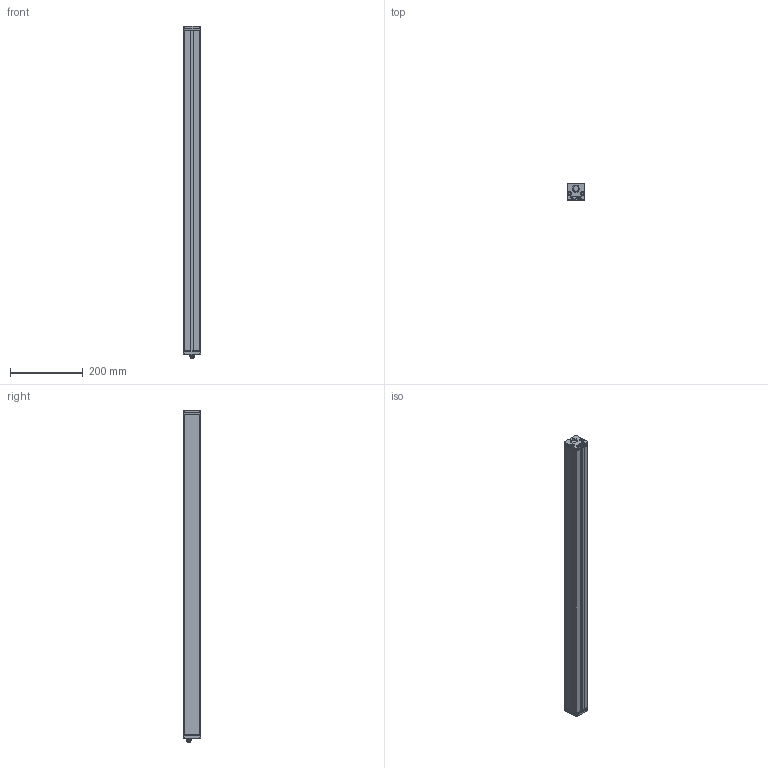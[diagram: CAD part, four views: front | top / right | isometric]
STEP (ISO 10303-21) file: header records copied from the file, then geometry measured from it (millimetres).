
FILE_DESCRIPTION (( 'STEP AP214' ), '1' );
FILE_NAME ('BLBAR 35.STEP', '2012-02-13T13:39:06', ( ' ' ), ( '' ), 'SwSTEP 2.0', 'SolidWorks 2009', '' );
FILE_SCHEMA (( 'AUTOMOTIVE_DESIGN' ));
Length unit declared in the file: millimetre
Products named in the file (1): BLBAR 35
Bounding box: 47.2 x 47 x 912.1 mm (x, y, z)
Volume: 461950.1 mm3; surface area: 457550.6 mm2
Topology: 1 solids, 3 shells, 599 faces, 1564 edges, 1007 vertices
Faces by surface type: plane 311, cylinder 156, bspline 66, torus 38, cone 20, sphere 8
Entity records: 34060 total; most frequent: CARTESIAN_POINT 13050, ORIENTED_EDGE 3096, DIRECTION 2810, EDGE_CURVE 1548, VERTEX_POINT 999, VECTOR 950, LINE 950, AXIS2_PLACEMENT_3D 930
